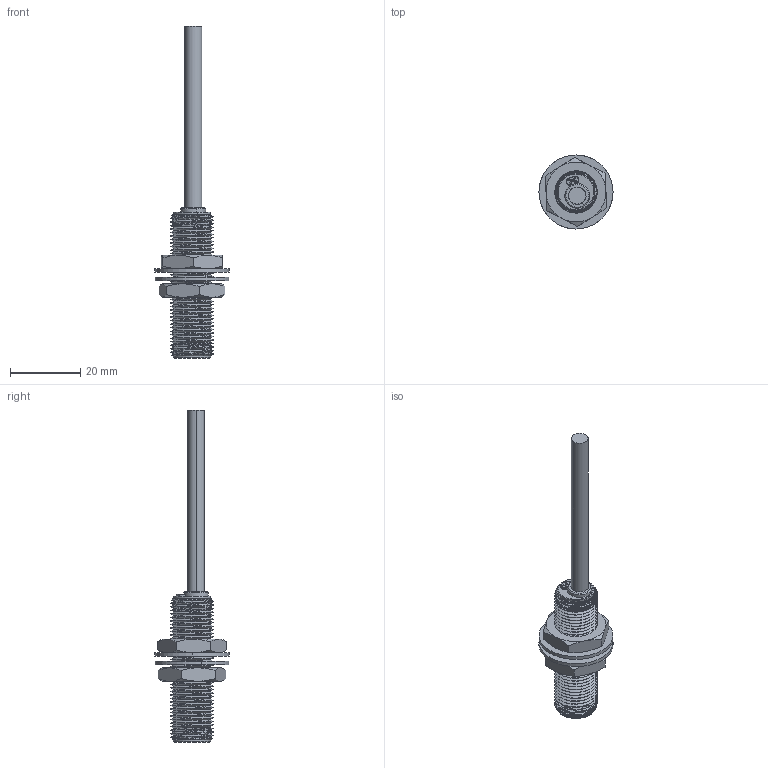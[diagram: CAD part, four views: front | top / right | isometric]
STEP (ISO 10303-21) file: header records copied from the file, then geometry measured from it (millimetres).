
FILE_DESCRIPTION (( 'STEP AP214' ), '1' );
FILE_NAME ('SN12-B-GX.STEP', '2025-09-25T01:15:25', ( 'Windows User' ), ( 'P R C' ), 'SwSTEP 2.0', 'SolidWorks 2023', '' );
FILE_SCHEMA (( 'AUTOMOTIVE_DESIGN' ));
Length unit declared in the file: millimetre
Products named in the file (9): 导线护套2015-4-24; M12埋入前塞-2015-7-11; 基板; M12透明后塞; 直径4.8导线2015-4-24; SN12-B-GX; 螺帽; 垫片; M12X40全螺纹壳体
Assembly tree (10 placements, depth 2):
  SN12-B-GX
    M12X40全螺纹壳体
    M12埋入前塞-2015-7-11
    基板
    M12透明后塞
    直径4.8导线2015-4-24
    导线护套2015-4-24
    螺帽  x2
    垫片  x2
Bounding box: 21 x 21 x 94.2 mm (x, y, z)
Volume: 4150.3 mm3; surface area: 8915.8 mm2
Topology: 10 solids, 10 shells, 324 faces, 816 edges, 524 vertices
Faces by surface type: cylinder 144, plane 121, cone 44, torus 12, bspline 3
Entity records: 16657 total; most frequent: CARTESIAN_POINT 9608, ORIENTED_EDGE 1512, DIRECTION 1346, EDGE_CURVE 756, AXIS2_PLACEMENT_3D 496, VERTEX_POINT 488, VECTOR 354, LINE 354
